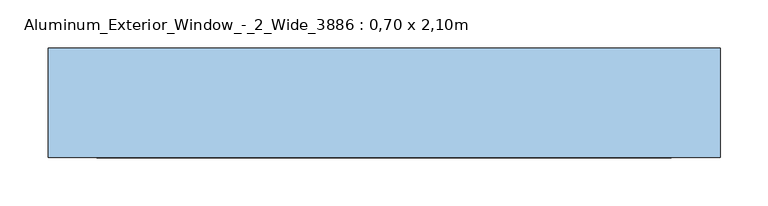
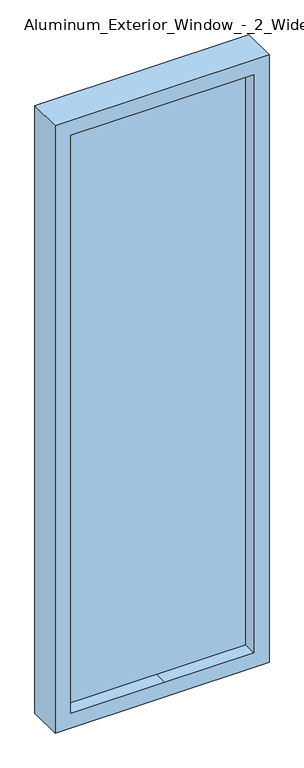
"""IFC4 building model written with IfcOpenShell, lengths in millimetres: window geometry, Aluminum_Exterior_Window_-_2_Wide_3886 : 0,70 x 2,10m."""

from ifc_helpers import new_model, si_unit, frame, origin, place, context, project, spatial, polyline, outline, extrude, source, transform, mapped, element, save


def aluminum_exterior_window_2_wide_3886_0_70_x_2_10m_7c316bb6(model_context):
    return source(origin(), model_context, "Body", "SweptSolid", [
        extrude(outline(polyline([(3160.0, -1371.6), (1060.0, -1371.6), (1060.0, -671.6), (3160.0, -671.6), (3160.0, -1371.6)]), holes=[polyline([(3109.2, -1047.0), (3109.2, -722.4), (1110.8, -722.4), (1110.8, -1013.8808837), (1110.8, -1320.8), (3109.2, -1320.8), (3109.2, -1047.0)])]), frame((0.0, -38.1424754, 0.0), z_axis=(0.0, 1.0, 0.0), x_axis=(0.0, 0.0, 1.0)), (0.0, 0.0, 1.0), 114.3),
        extrude(outline(polyline([(3109.2, -1047.0), (3109.2, -1320.8), (1110.8, -1320.8), (1110.8, -1020.891469), (1110.8, -722.4), (3109.2, -722.4), (3109.2, -1047.0)])), frame((0.0, 6.3075246, 0.0), z_axis=(0.0, 1.0, 0.0), x_axis=(0.0, 0.0, 1.0)), (0.0, 0.0, 1.0), 25.4),
    ])


if __name__ == "__main__":
    model = new_model("IFC4")
    model_context = context("Model", 3, world=origin())
    ifc_project = project(units=[si_unit("LENGTHUNIT", "METRE", prefix="MILLI")], contexts=[model_context])
    site = spatial("IfcSite", under=ifc_project)
    building = spatial("IfcBuilding", under=site)
    placement = place(None, origin())
    aluminum_exterior_window_2_wide_3886_0_70_x_2_10m_shape = aluminum_exterior_window_2_wide_3886_0_70_x_2_10m_7c316bb6(model_context)
    element("IfcWindow", 1, ObjectType="Aluminum_Exterior_Window_-_2_Wide_3886 : 0,70 x 2,10m", at=placement, inside=building, context=model_context, shape_type="MappedRepresentation", body=[
        mapped(aluminum_exterior_window_2_wide_3886_0_70_x_2_10m_shape, transform((0.0, 0.0, 0.0), x_axis=(1.0, 0.0, 0.0), y_axis=(0.0, 1.0, 0.0), z_axis=(0.0, 0.0, 1.0))),
    ])
    save(model, "model.ifc")
